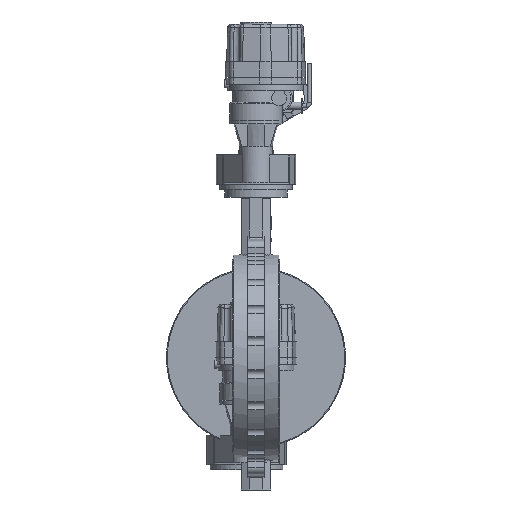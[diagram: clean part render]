
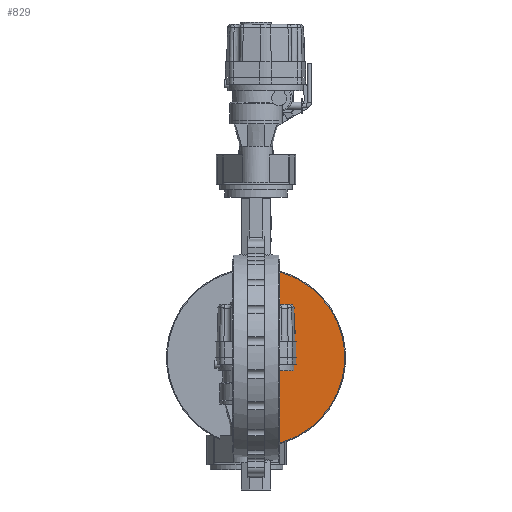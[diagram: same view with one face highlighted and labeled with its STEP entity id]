
A CAD part, left-side view. The second image highlights one B-rep face of the part: STEP entity #829.
In plain terms, the highlighted planar face has unit normal (-1, 0, 0).
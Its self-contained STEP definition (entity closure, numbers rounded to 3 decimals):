
#829 = ADVANCED_FACE( '', ( #2239 ), #2240, .T. );
#2239 = FACE_OUTER_BOUND( '', #4812, .T. );
#2240 = PLANE( '', #4813 );
#4812 = EDGE_LOOP( '', ( #11712, #11713 ) );
#4813 = AXIS2_PLACEMENT_3D( '', #11714, #11715, #11716 );
#11712 = ORIENTED_EDGE( '', *, *, #17400, .T. );
#11713 = ORIENTED_EDGE( '', *, *, #17401, .T. );
#11714 = CARTESIAN_POINT( '', ( -7.5, 0., 0. ) );
#11715 = DIRECTION( '', ( -1., 0., 0. ) );
#11716 = DIRECTION( '', ( 0., -1., 0. ) );
#17400 = EDGE_CURVE( '', #19930, #19931, #19932, .F. );
#17401 = EDGE_CURVE( '', #19931, #19930, #19933, .T. );
#19930 = VERTEX_POINT( '', #25326 );
#19931 = VERTEX_POINT( '', #25327 );
#19932 = LINE( '', #25328, #25329 );
#19933 = CIRCLE( '', #25330, 298. );
#25326 = CARTESIAN_POINT( '', ( -7.5, -44.371, 294.678 ) );
#25327 = CARTESIAN_POINT( '', ( -7.5, -44.371, -294.678 ) );
#25328 = CARTESIAN_POINT( '', ( -7.5, -44.371, -299.595 ) );
#25329 = VECTOR( '', #34683, 1000. );
#25330 = AXIS2_PLACEMENT_3D( '', #34684, #34685, #34686 );
#34683 = DIRECTION( '', ( 0., 0., 1. ) );
#34684 = CARTESIAN_POINT( '', ( -7.5, 0., 0. ) );
#34685 = DIRECTION( '', ( -1., 0., 0. ) );
#34686 = DIRECTION( '', ( 0., -1., 0. ) );
